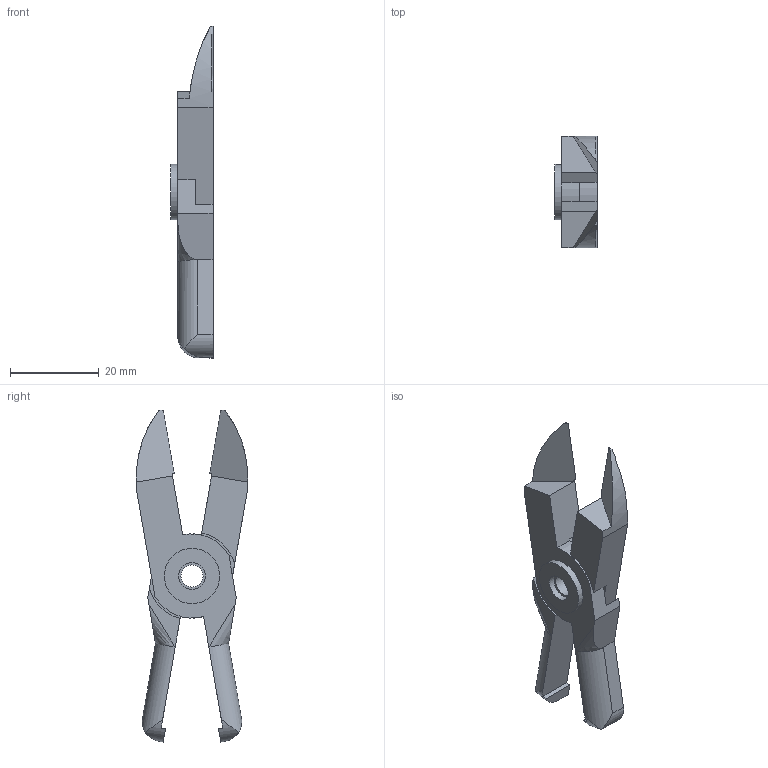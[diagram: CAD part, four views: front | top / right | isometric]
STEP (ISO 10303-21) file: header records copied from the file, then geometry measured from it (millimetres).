
FILE_DESCRIPTION (( 'STEP AP214' ), '1' );
FILE_NAME ('662.STEP', '2024-07-31T20:21:51', ( '' ), ( '' ), 'SwSTEP 2.0', 'SolidWorks 2022', '' );
FILE_SCHEMA (( 'AUTOMOTIVE_DESIGN' ));
Length unit declared in the file: millimetre
Products named in the file (1): 662
Bounding box: 9.5 x 25.12 x 74.88 mm (x, y, z)
Volume: 6743.7 mm3; surface area: 5408.7 mm2
Topology: 3 solids, 3 shells, 72 faces, 190 edges, 126 vertices
Faces by surface type: plane 44, cylinder 24, bspline 4
Full cylindrical faces by diameter (mm): 5 x1, 6 x1, 8 x3, 12.5 x1
Entity records: 2335 total; most frequent: CARTESIAN_POINT 536, ORIENTED_EDGE 364, DIRECTION 342, EDGE_CURVE 182, VERTEX_POINT 124, LINE 120, VECTOR 120, AXIS2_PLACEMENT_3D 111
